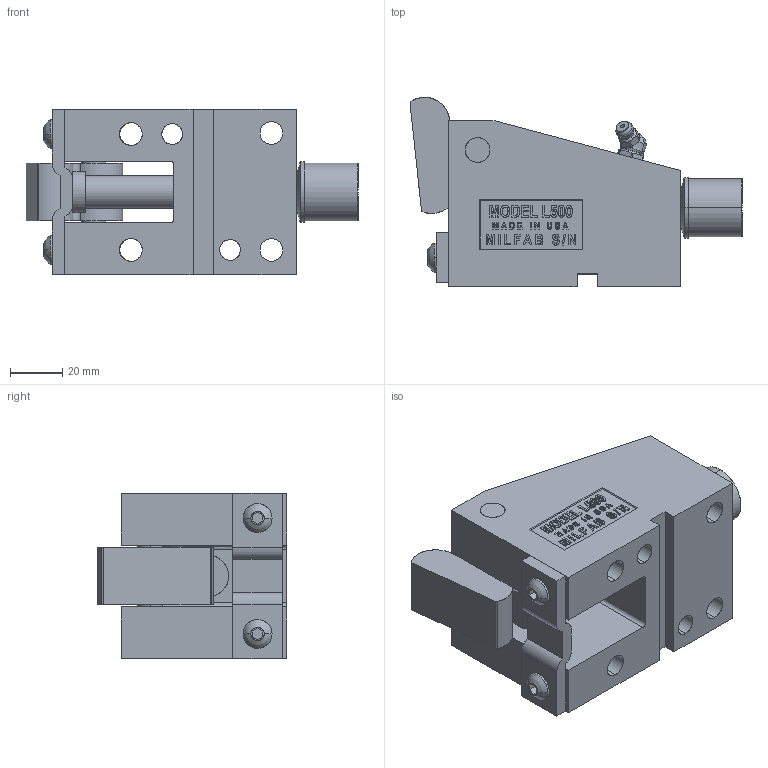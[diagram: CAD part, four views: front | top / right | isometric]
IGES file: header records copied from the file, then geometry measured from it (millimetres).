
Start section: SolidWorks IGES file using analytic representation for surfaces
Global section: file name: Y:\JIM'S INCH CAM UNITS\L500\OPEN\L500-O.IGS; native system: SolidWorks 2006 by SolidWorks Corporation; preprocessor: SolidWorks 2006 by SolidWorks Corporation; author: Jim; date: 090203.140202; units: inch
Bounding box: 127.43 x 72.57 x 63.5 mm (x, y, z)
Surface area: 65456.3 mm2 (no closed solid volume)
Topology: 0 solids, 0 shells, 572 faces, 7413 edges, 7411 vertices
Faces by surface type: bspline 435, revolution 137
